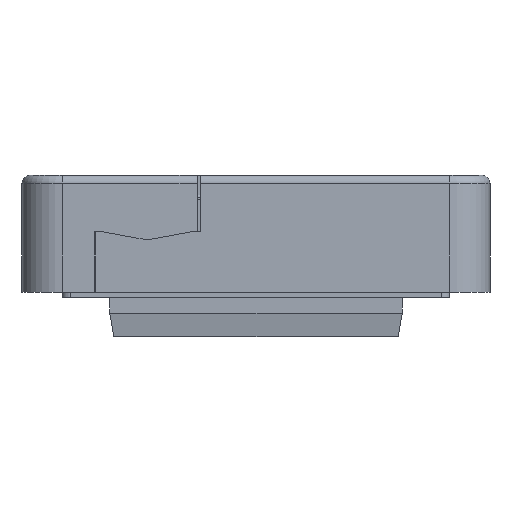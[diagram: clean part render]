
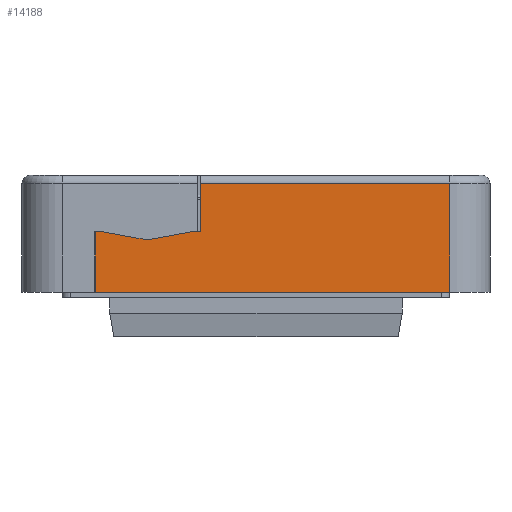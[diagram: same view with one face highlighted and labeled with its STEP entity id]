
A CAD part, left-side view. The second image highlights one B-rep face of the part: STEP entity #14188.
In plain terms, the highlighted planar face has unit normal (-1, 0, 0) as drawn and (1, 0, 0) by its records, which use the part's own axes.
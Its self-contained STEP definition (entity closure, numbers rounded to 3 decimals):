
#1690=FACE_OUTER_BOUND('',#2471,.T.);
#2471=EDGE_LOOP('',(#11658,#11659,#11660,#11661,#11662,#11663,#11664,#11665,
#11666));
#3713=LINE('',#22391,#5189);
#3719=LINE('',#22403,#5195);
#3722=LINE('',#22409,#5198);
#3723=LINE('',#22411,#5199);
#3724=LINE('',#22413,#5200);
#3725=LINE('',#22415,#5201);
#3726=LINE('',#22417,#5202);
#3727=LINE('',#22419,#5203);
#3728=LINE('',#22420,#5204);
#5189=VECTOR('',#17840,10.);
#5195=VECTOR('',#17848,10.);
#5198=VECTOR('',#17853,10.);
#5199=VECTOR('',#17854,10.);
#5200=VECTOR('',#17855,10.);
#5201=VECTOR('',#17856,10.);
#5202=VECTOR('',#17857,10.);
#5203=VECTOR('',#17858,10.);
#5204=VECTOR('',#17859,10.);
#6594=VERTEX_POINT('',#22389);
#6595=VERTEX_POINT('',#22390);
#6600=VERTEX_POINT('',#22402);
#6602=VERTEX_POINT('',#22408);
#6603=VERTEX_POINT('',#22410);
#6604=VERTEX_POINT('',#22412);
#6605=VERTEX_POINT('',#22414);
#6606=VERTEX_POINT('',#22416);
#6607=VERTEX_POINT('',#22418);
#8374=EDGE_CURVE('',#6594,#6595,#3713,.T.);
#8380=EDGE_CURVE('',#6600,#6594,#3719,.T.);
#8383=EDGE_CURVE('',#6602,#6595,#3722,.T.);
#8384=EDGE_CURVE('',#6603,#6602,#3723,.T.);
#8385=EDGE_CURVE('',#6604,#6603,#3724,.T.);
#8386=EDGE_CURVE('',#6604,#6605,#3725,.T.);
#8387=EDGE_CURVE('',#6605,#6606,#3726,.T.);
#8388=EDGE_CURVE('',#6606,#6607,#3727,.T.);
#8389=EDGE_CURVE('',#6607,#6600,#3728,.T.);
#11658=ORIENTED_EDGE('',*,*,#8374,.T.);
#11659=ORIENTED_EDGE('',*,*,#8383,.F.);
#11660=ORIENTED_EDGE('',*,*,#8384,.F.);
#11661=ORIENTED_EDGE('',*,*,#8385,.F.);
#11662=ORIENTED_EDGE('',*,*,#8386,.T.);
#11663=ORIENTED_EDGE('',*,*,#8387,.T.);
#11664=ORIENTED_EDGE('',*,*,#8388,.T.);
#11665=ORIENTED_EDGE('',*,*,#8389,.T.);
#11666=ORIENTED_EDGE('',*,*,#8380,.T.);
#13533=PLANE('',#15236);
#14188=ADVANCED_FACE('',(#1690),#13533,.T.);
#15236=AXIS2_PLACEMENT_3D('',#22407,#17851,#17852);
#17840=DIRECTION('',(0.,0.,1.));
#17848=DIRECTION('',(0.,1.,0.));
#17851=DIRECTION('center_axis',(1.,0.,0.));
#17852=DIRECTION('ref_axis',(0.,0.,-1.));
#17853=DIRECTION('',(0.,1.,0.));
#17854=DIRECTION('',(0.,0.,1.));
#17855=DIRECTION('',(0.,-1.,0.));
#17856=DIRECTION('',(0.,0.,1.));
#17857=DIRECTION('',(0.,1.,0.));
#17858=DIRECTION('',(0.,0.984,0.179));
#17859=DIRECTION('',(0.,0.984,-0.179));
#22389=CARTESIAN_POINT('',(74.,19.9,-8.));
#22390=CARTESIAN_POINT('',(74.,19.9,-0.5));
#22391=CARTESIAN_POINT('',(74.,19.9,-2.554));
#22402=CARTESIAN_POINT('',(74.,19.,-8.));
#22403=CARTESIAN_POINT('',(74.,-3.75,-8.));
#22407=CARTESIAN_POINT('Origin',(74.,-27.5,0.));
#22408=CARTESIAN_POINT('',(74.,-24.,-0.5));
#22409=CARTESIAN_POINT('',(74.,-29.,-0.5));
#22410=CARTESIAN_POINT('',(74.,-24.,-14.));
#22411=CARTESIAN_POINT('',(74.,-24.,-0.25));
#22412=CARTESIAN_POINT('',(74.,6.9,-14.));
#22413=CARTESIAN_POINT('',(74.,-13.75,-14.));
#22414=CARTESIAN_POINT('',(74.,6.9,-8.));
#22415=CARTESIAN_POINT('',(74.,6.9,-5.943));
#22416=CARTESIAN_POINT('',(74.,8.,-8.));
#22417=CARTESIAN_POINT('',(74.,-3.75,-8.));
#22418=CARTESIAN_POINT('',(74.,13.5,-7.));
#22419=CARTESIAN_POINT('',(74.,-5.728,-10.496));
#22420=CARTESIAN_POINT('',(74.,-4.21,-3.78));
